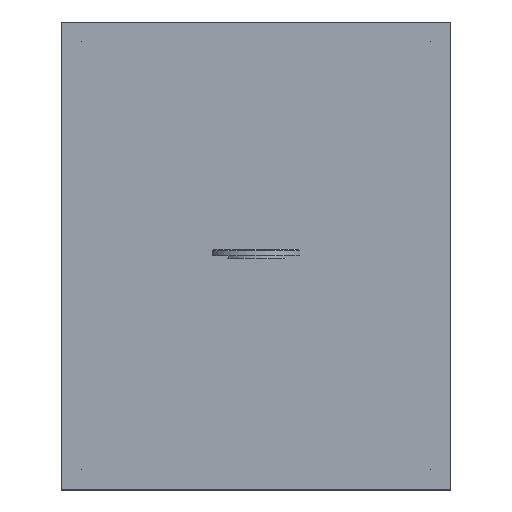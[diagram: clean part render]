
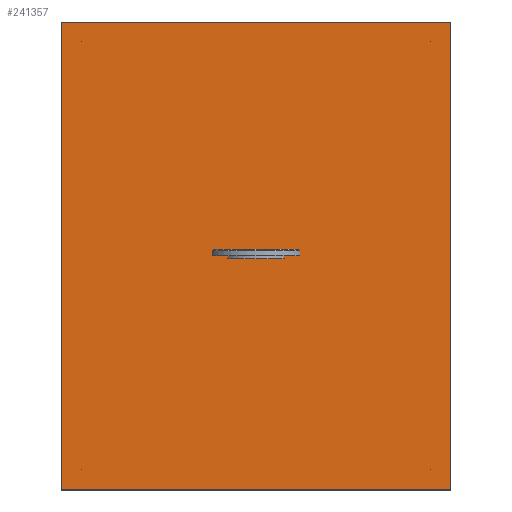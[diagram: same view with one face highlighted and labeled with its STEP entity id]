
A CAD part, top view. The second image highlights one B-rep face of the part: STEP entity #241357.
In plain terms, the highlighted planar face has unit normal (0, 0, 1).
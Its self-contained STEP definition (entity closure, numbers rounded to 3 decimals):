
#241043 = VERTEX_POINT('',#241044);
#241044 = CARTESIAN_POINT('',(-248.,-298.,402.));
#241051 = PLANE('',#241052);
#241052 = AXIS2_PLACEMENT_3D('',#241053,#241054,#241055);
#241053 = CARTESIAN_POINT('',(-248.,-298.,392.));
#241054 = DIRECTION('',(1.,0.,0.));
#241055 = DIRECTION('',(0.,0.,1.));
#241063 = PLANE('',#241064);
#241064 = AXIS2_PLACEMENT_3D('',#241065,#241066,#241067);
#241065 = CARTESIAN_POINT('',(-248.,-298.,392.));
#241066 = DIRECTION('',(0.,1.,0.));
#241067 = DIRECTION('',(0.,0.,1.));
#241104 = VERTEX_POINT('',#241105);
#241105 = CARTESIAN_POINT('',(-248.,298.,402.));
#241119 = PLANE('',#241120);
#241120 = AXIS2_PLACEMENT_3D('',#241121,#241122,#241123);
#241121 = CARTESIAN_POINT('',(-248.,298.,392.));
#241122 = DIRECTION('',(0.,1.,0.));
#241123 = DIRECTION('',(0.,0.,1.));
#241131 = EDGE_CURVE('',#241043,#241104,#241132,.T.);
#241132 = SURFACE_CURVE('',#241133,(#241137,#241144),.PCURVE_S1.);
#241133 = LINE('',#241134,#241135);
#241134 = CARTESIAN_POINT('',(-248.,-298.,402.));
#241135 = VECTOR('',#241136,1.);
#241136 = DIRECTION('',(0.,1.,0.));
#241137 = PCURVE('',#241051,#241138);
#241138 = DEFINITIONAL_REPRESENTATION('',(#241139),#241143);
#241139 = LINE('',#241140,#241141);
#241140 = CARTESIAN_POINT('',(10.,0.));
#241141 = VECTOR('',#241142,1.);
#241142 = DIRECTION('',(0.,-1.));
#241143 = ( GEOMETRIC_REPRESENTATION_CONTEXT(2) 
PARAMETRIC_REPRESENTATION_CONTEXT() REPRESENTATION_CONTEXT('2D SPACE',''
  ) );
#241144 = PCURVE('',#241145,#241150);
#241145 = PLANE('',#241146);
#241146 = AXIS2_PLACEMENT_3D('',#241147,#241148,#241149);
#241147 = CARTESIAN_POINT('',(-248.,-298.,402.));
#241148 = DIRECTION('',(0.,0.,1.));
#241149 = DIRECTION('',(1.,0.,0.));
#241150 = DEFINITIONAL_REPRESENTATION('',(#241151),#241155);
#241151 = LINE('',#241152,#241153);
#241152 = CARTESIAN_POINT('',(0.,0.));
#241153 = VECTOR('',#241154,1.);
#241154 = DIRECTION('',(0.,1.));
#241155 = ( GEOMETRIC_REPRESENTATION_CONTEXT(2) 
PARAMETRIC_REPRESENTATION_CONTEXT() REPRESENTATION_CONTEXT('2D SPACE',''
  ) );
#241163 = VERTEX_POINT('',#241164);
#241164 = CARTESIAN_POINT('',(248.,-298.,402.));
#241171 = PLANE('',#241172);
#241172 = AXIS2_PLACEMENT_3D('',#241173,#241174,#241175);
#241173 = CARTESIAN_POINT('',(248.,-298.,392.));
#241174 = DIRECTION('',(1.,0.,0.));
#241175 = DIRECTION('',(0.,0.,1.));
#241214 = VERTEX_POINT('',#241215);
#241215 = CARTESIAN_POINT('',(248.,298.,402.));
#241236 = EDGE_CURVE('',#241163,#241214,#241237,.T.);
#241237 = SURFACE_CURVE('',#241238,(#241242,#241249),.PCURVE_S1.);
#241238 = LINE('',#241239,#241240);
#241239 = CARTESIAN_POINT('',(248.,-298.,402.));
#241240 = VECTOR('',#241241,1.);
#241241 = DIRECTION('',(0.,1.,0.));
#241242 = PCURVE('',#241171,#241243);
#241243 = DEFINITIONAL_REPRESENTATION('',(#241244),#241248);
#241244 = LINE('',#241245,#241246);
#241245 = CARTESIAN_POINT('',(10.,0.));
#241246 = VECTOR('',#241247,1.);
#241247 = DIRECTION('',(0.,-1.));
#241248 = ( GEOMETRIC_REPRESENTATION_CONTEXT(2) 
PARAMETRIC_REPRESENTATION_CONTEXT() REPRESENTATION_CONTEXT('2D SPACE',''
  ) );
#241249 = PCURVE('',#241145,#241250);
#241250 = DEFINITIONAL_REPRESENTATION('',(#241251),#241255);
#241251 = LINE('',#241252,#241253);
#241252 = CARTESIAN_POINT('',(496.,0.));
#241253 = VECTOR('',#241254,1.);
#241254 = DIRECTION('',(0.,1.));
#241255 = ( GEOMETRIC_REPRESENTATION_CONTEXT(2) 
PARAMETRIC_REPRESENTATION_CONTEXT() REPRESENTATION_CONTEXT('2D SPACE',''
  ) );
#241282 = EDGE_CURVE('',#241043,#241163,#241283,.T.);
#241283 = SURFACE_CURVE('',#241284,(#241288,#241295),.PCURVE_S1.);
#241284 = LINE('',#241285,#241286);
#241285 = CARTESIAN_POINT('',(-248.,-298.,402.));
#241286 = VECTOR('',#241287,1.);
#241287 = DIRECTION('',(1.,0.,0.));
#241288 = PCURVE('',#241063,#241289);
#241289 = DEFINITIONAL_REPRESENTATION('',(#241290),#241294);
#241290 = LINE('',#241291,#241292);
#241291 = CARTESIAN_POINT('',(10.,0.));
#241292 = VECTOR('',#241293,1.);
#241293 = DIRECTION('',(0.,1.));
#241294 = ( GEOMETRIC_REPRESENTATION_CONTEXT(2) 
PARAMETRIC_REPRESENTATION_CONTEXT() REPRESENTATION_CONTEXT('2D SPACE',''
  ) );
#241295 = PCURVE('',#241145,#241296);
#241296 = DEFINITIONAL_REPRESENTATION('',(#241297),#241301);
#241297 = LINE('',#241298,#241299);
#241298 = CARTESIAN_POINT('',(0.,0.));
#241299 = VECTOR('',#241300,1.);
#241300 = DIRECTION('',(1.,0.));
#241301 = ( GEOMETRIC_REPRESENTATION_CONTEXT(2) 
PARAMETRIC_REPRESENTATION_CONTEXT() REPRESENTATION_CONTEXT('2D SPACE',''
  ) );
#241329 = EDGE_CURVE('',#241104,#241214,#241330,.T.);
#241330 = SURFACE_CURVE('',#241331,(#241335,#241342),.PCURVE_S1.);
#241331 = LINE('',#241332,#241333);
#241332 = CARTESIAN_POINT('',(-248.,298.,402.));
#241333 = VECTOR('',#241334,1.);
#241334 = DIRECTION('',(1.,0.,0.));
#241335 = PCURVE('',#241119,#241336);
#241336 = DEFINITIONAL_REPRESENTATION('',(#241337),#241341);
#241337 = LINE('',#241338,#241339);
#241338 = CARTESIAN_POINT('',(10.,0.));
#241339 = VECTOR('',#241340,1.);
#241340 = DIRECTION('',(0.,1.));
#241341 = ( GEOMETRIC_REPRESENTATION_CONTEXT(2) 
PARAMETRIC_REPRESENTATION_CONTEXT() REPRESENTATION_CONTEXT('2D SPACE',''
  ) );
#241342 = PCURVE('',#241145,#241343);
#241343 = DEFINITIONAL_REPRESENTATION('',(#241344),#241348);
#241344 = LINE('',#241345,#241346);
#241345 = CARTESIAN_POINT('',(0.,596.));
#241346 = VECTOR('',#241347,1.);
#241347 = DIRECTION('',(1.,0.));
#241348 = ( GEOMETRIC_REPRESENTATION_CONTEXT(2) 
PARAMETRIC_REPRESENTATION_CONTEXT() REPRESENTATION_CONTEXT('2D SPACE',''
  ) );
#241357 = ADVANCED_FACE('',(#241358),#241145,.T.);
#241358 = FACE_BOUND('',#241359,.T.);
#241359 = EDGE_LOOP('',(#241360,#241361,#241362,#241363));
#241360 = ORIENTED_EDGE('',*,*,#241131,.F.);
#241361 = ORIENTED_EDGE('',*,*,#241282,.T.);
#241362 = ORIENTED_EDGE('',*,*,#241236,.T.);
#241363 = ORIENTED_EDGE('',*,*,#241329,.F.);
